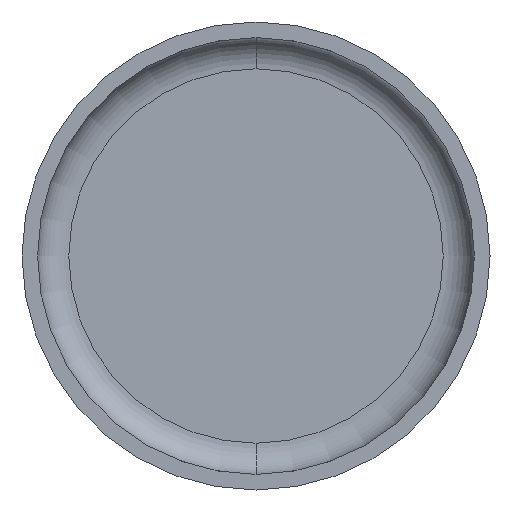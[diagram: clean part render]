
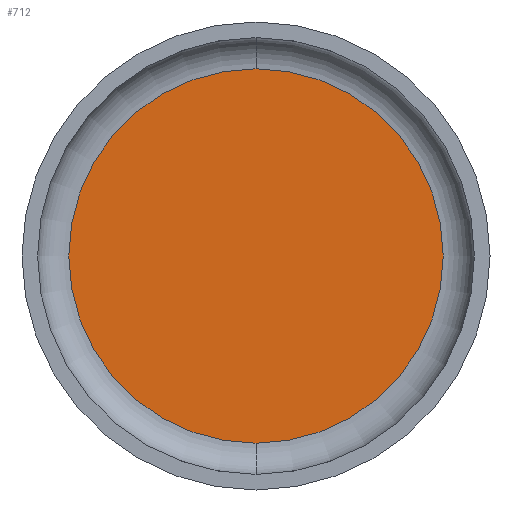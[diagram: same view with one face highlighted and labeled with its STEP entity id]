
A CAD part, front view. The second image highlights one B-rep face of the part: STEP entity #712.
In plain terms, the highlighted planar face has unit normal (0, -1, 0).
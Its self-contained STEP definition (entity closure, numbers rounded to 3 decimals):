
#82 = AXIS2_PLACEMENT_3D ( 'NONE', #974, #478, #642 ) ;
#100 = PLANE ( 'NONE',  #1016 ) ;
#154 = EDGE_CURVE ( 'NONE', #754, #252, #918, .T. ) ;
#198 = ORIENTED_EDGE ( 'NONE', *, *, #585, .F. ) ;
#243 = AXIS2_PLACEMENT_3D ( 'NONE', #244, #330, #879 ) ;
#244 = CARTESIAN_POINT ( 'NONE',  ( 0., 99., 0. ) ) ;
#252 = VERTEX_POINT ( 'NONE', #314 ) ;
#293 = ORIENTED_EDGE ( 'NONE', *, *, #154, .F. ) ;
#314 = CARTESIAN_POINT ( 'NONE',  ( 0., 99., 12. ) ) ;
#330 = DIRECTION ( 'NONE',  ( 0., 1., 0. ) ) ;
#361 = FACE_OUTER_BOUND ( 'NONE', #1037, .T. ) ;
#429 = CARTESIAN_POINT ( 'NONE',  ( 0., 99., -12. ) ) ;
#478 = DIRECTION ( 'NONE',  ( 0., 1., 0. ) ) ;
#585 = EDGE_CURVE ( 'NONE', #252, #754, #1040, .T. ) ;
#642 = DIRECTION ( 'NONE',  ( 0., 0., 1. ) ) ;
#712 = ADVANCED_FACE ( 'NONE', ( #361 ), #100, .F. ) ;
#754 = VERTEX_POINT ( 'NONE', #429 ) ;
#838 = DIRECTION ( 'NONE',  ( 0., 0., 1. ) ) ;
#879 = DIRECTION ( 'NONE',  ( 0., 0., 1. ) ) ;
#918 = CIRCLE ( 'NONE', #82, 12. ) ;
#919 = CARTESIAN_POINT ( 'NONE',  ( 0., 99., 0. ) ) ;
#974 = CARTESIAN_POINT ( 'NONE',  ( 0., 99., 0. ) ) ;
#1005 = DIRECTION ( 'NONE',  ( 0., 1., 0. ) ) ;
#1016 = AXIS2_PLACEMENT_3D ( 'NONE', #919, #1005, #838 ) ;
#1037 = EDGE_LOOP ( 'NONE', ( #198, #293 ) ) ;
#1040 = CIRCLE ( 'NONE', #243, 12. ) ;
